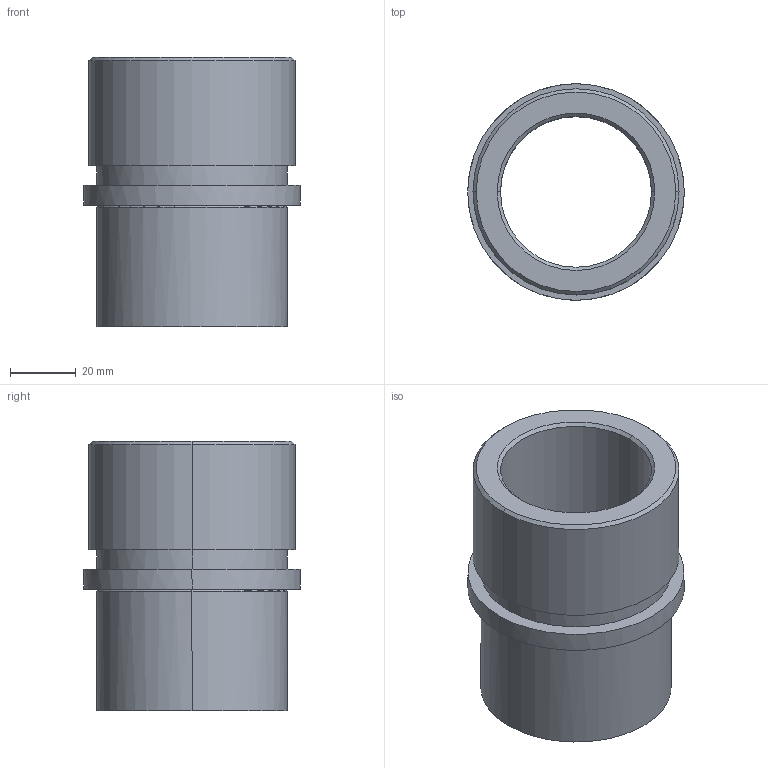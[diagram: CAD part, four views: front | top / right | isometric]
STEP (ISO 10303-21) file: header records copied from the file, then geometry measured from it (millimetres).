
FILE_DESCRIPTION(('CATIA V5 STEP Exchange'),'2;1');
FILE_NAME('C:\Users\Utente\Desktop\IO LAVORO\3D X SITO CF\X SITO\735\735-38.stp','2021-01-16T19:22:42+00:00',('none'),('none'),'CATIA Version 5 Release 20 GA (IN-10)','CATIA V5 STEP AP203','none');
FILE_SCHEMA(('CONFIG_CONTROL_DESIGN'));
Length unit declared in the file: millimetre
Products named in the file (1): 735-38
Assembly tree (1 placements, depth 2):
  735-38
    #58
Bounding box: 66 x 66 x 82 mm (x, y, z)
Volume: 99679.3 mm3; surface area: 31878.9 mm2
Topology: 1 solids, 1 shells, 25 faces, 50 edges, 30 vertices
Faces by surface type: cylinder 10, cone 6, plane 5, torus 4
Entity records: 851 total; most frequent: CARTESIAN_POINT 282, ORIENTED_EDGE 100, DIRECTION 96, AXIS2_PLACEMENT_3D 53, EDGE_CURVE 50, EDGE_LOOP 30, VERTEX_POINT 30, CIRCLE 26
